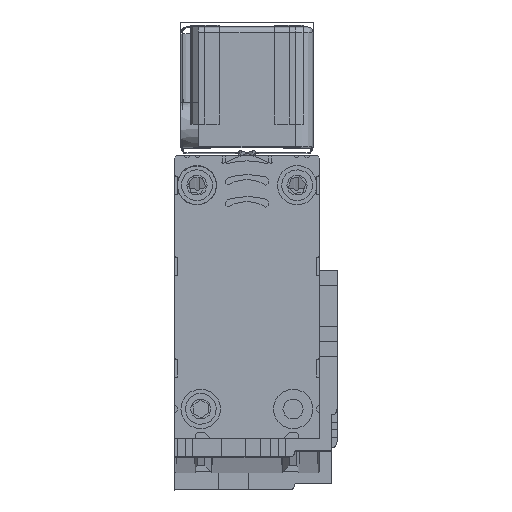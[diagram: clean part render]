
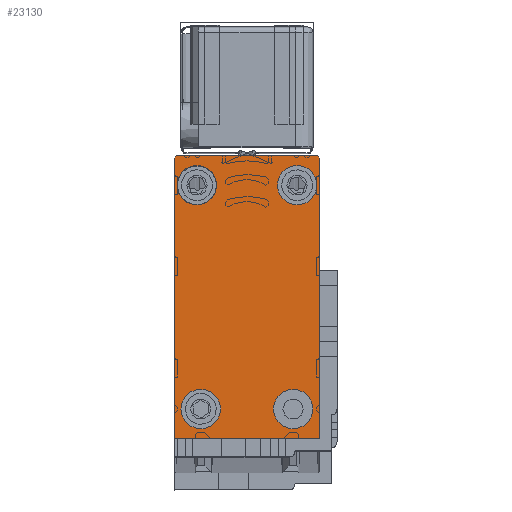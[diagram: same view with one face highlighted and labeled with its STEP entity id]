
A CAD part, top view. The second image highlights one B-rep face of the part: STEP entity #23130.
In plain terms, the highlighted planar face has unit normal (0, 0, 1).
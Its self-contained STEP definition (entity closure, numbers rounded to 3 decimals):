
#348 = CARTESIAN_POINT ( 'NONE',  ( -18.014, 25.871, 3185. ) ) ;
#368 = AXIS2_PLACEMENT_3D ( 'NONE', #13480, #2175, #15361 ) ;
#696 = PLANE ( 'NONE',  #1448 ) ;
#739 = ORIENTED_EDGE ( 'NONE', *, *, #10903, .T. ) ;
#771 = DIRECTION ( 'NONE',  ( -1., 0., 0. ) ) ;
#1096 = CARTESIAN_POINT ( 'NONE',  ( -17.017, -15.887, 3185. ) ) ;
#1256 = LINE ( 'NONE', #21057, #20518 ) ;
#1262 = FACE_BOUND ( 'NONE', #15557, .T. ) ;
#1448 = AXIS2_PLACEMENT_3D ( 'NONE', #23103, #12112, #771 ) ;
#1514 = ORIENTED_EDGE ( 'NONE', *, *, #12189, .T. ) ;
#1546 = CARTESIAN_POINT ( 'NONE',  ( -18.014, 25.871, 3185. ) ) ;
#1666 = ORIENTED_EDGE ( 'NONE', *, *, #8237, .T. ) ;
#1703 = LINE ( 'NONE', #15702, #20987 ) ;
#1790 = DIRECTION ( 'NONE',  ( -1., 0., 0. ) ) ;
#2175 = DIRECTION ( 'NONE',  ( 0., 0., -1. ) ) ;
#2239 = DIRECTION ( 'NONE',  ( 0., 0., -1. ) ) ;
#3128 = EDGE_CURVE ( 'NONE', #9596, #21381, #9467, .T. ) ;
#3173 = ORIENTED_EDGE ( 'NONE', *, *, #4798, .T. ) ;
#3261 = ORIENTED_EDGE ( 'NONE', *, *, #9477, .T. ) ;
#3410 = DIRECTION ( 'NONE',  ( 0., 0., -1. ) ) ;
#3472 = DIRECTION ( 'NONE',  ( 0., 0., -1. ) ) ;
#3632 = CARTESIAN_POINT ( 'NONE',  ( -17.514, 26.371, 3185. ) ) ;
#3875 = VERTEX_POINT ( 'NONE', #348 ) ;
#3923 = CARTESIAN_POINT ( 'NONE',  ( 5.984, 25.871, 3185. ) ) ;
#3954 = AXIS2_PLACEMENT_3D ( 'NONE', #4234, #17372, #6115 ) ;
#4234 = CARTESIAN_POINT ( 'NONE',  ( -14.365, 21.401, 3185. ) ) ;
#4460 = CARTESIAN_POINT ( 'NONE',  ( -10.412, -15.887, 3185. ) ) ;
#4787 = CIRCLE ( 'NONE', #19056, 3.302 ) ;
#4798 = EDGE_CURVE ( 'NONE', #6881, #23871, #18098, .T. ) ;
#5351 = DIRECTION ( 'NONE',  ( 0., 0., 1. ) ) ;
#5528 = CARTESIAN_POINT ( 'NONE',  ( 5.637, 21.401, 3185. ) ) ;
#5679 = EDGE_CURVE ( 'NONE', #23871, #9207, #23777, .T. ) ;
#5950 = EDGE_LOOP ( 'NONE', ( #22499, #23508 ) ) ;
#5968 = ORIENTED_EDGE ( 'NONE', *, *, #13428, .T. ) ;
#6022 = EDGE_CURVE ( 'NONE', #3875, #6881, #19817, .T. ) ;
#6115 = DIRECTION ( 'NONE',  ( -1., 0., 0. ) ) ;
#6315 = FACE_BOUND ( 'NONE', #6565, .T. ) ;
#6565 = EDGE_LOOP ( 'NONE', ( #1666, #3261 ) ) ;
#6881 = VERTEX_POINT ( 'NONE', #15644 ) ;
#7411 = EDGE_CURVE ( 'NONE', #21381, #9596, #21707, .T. ) ;
#7789 = CARTESIAN_POINT ( 'NONE',  ( -13.714, -15.887, 3185. ) ) ;
#7806 = AXIS2_PLACEMENT_3D ( 'NONE', #13538, #2239, #15429 ) ;
#8053 = CIRCLE ( 'NONE', #15170, 3.302 ) ;
#8237 = EDGE_CURVE ( 'NONE', #21777, #13922, #8053, .T. ) ;
#8391 = ORIENTED_EDGE ( 'NONE', *, *, #14989, .T. ) ;
#8800 = ORIENTED_EDGE ( 'NONE', *, *, #5679, .T. ) ;
#9207 = VERTEX_POINT ( 'NONE', #12828 ) ;
#9383 = CARTESIAN_POINT ( 'NONE',  ( -17.667, 21.401, 3185. ) ) ;
#9467 = CIRCLE ( 'NONE', #3954, 3.302 ) ;
#9477 = EDGE_CURVE ( 'NONE', #13922, #21777, #4787, .T. ) ;
#9539 = CARTESIAN_POINT ( 'NONE',  ( 5.984, -20.888, 3185. ) ) ;
#9581 = CARTESIAN_POINT ( 'NONE',  ( -11.063, 21.401, 3185. ) ) ;
#9596 = VERTEX_POINT ( 'NONE', #9383 ) ;
#9688 = DIRECTION ( 'NONE',  ( -1., 0., 0. ) ) ;
#9966 = DIRECTION ( 'NONE',  ( -1., 0., 0. ) ) ;
#9989 = CARTESIAN_POINT ( 'NONE',  ( -17.514, 25.871, 3185. ) ) ;
#10071 = DIRECTION ( 'NONE',  ( 0., 1., 0. ) ) ;
#10339 = ORIENTED_EDGE ( 'NONE', *, *, #19031, .T. ) ;
#10408 = VERTEX_POINT ( 'NONE', #3923 ) ;
#10434 = EDGE_CURVE ( 'NONE', #19066, #16810, #11799, .T. ) ;
#10435 = CARTESIAN_POINT ( 'NONE',  ( 2.335, 21.401, 3185. ) ) ;
#10630 = VERTEX_POINT ( 'NONE', #1096 ) ;
#10903 = EDGE_CURVE ( 'NONE', #16810, #19066, #13818, .T. ) ;
#10952 = DIRECTION ( 'NONE',  ( 0., -1., 0. ) ) ;
#11598 = ORIENTED_EDGE ( 'NONE', *, *, #6022, .T. ) ;
#11799 = CIRCLE ( 'NONE', #368, 3.302 ) ;
#11916 = DIRECTION ( 'NONE',  ( 0., 1., 0. ) ) ;
#12112 = DIRECTION ( 'NONE',  ( 0., 0., 1. ) ) ;
#12189 = EDGE_CURVE ( 'NONE', #10630, #23108, #22239, .T. ) ;
#12353 = ORIENTED_EDGE ( 'NONE', *, *, #15962, .F. ) ;
#12354 = DIRECTION ( 'NONE',  ( -1., 0., 0. ) ) ;
#12638 = CARTESIAN_POINT ( 'NONE',  ( 5.984, -20.888, 3185. ) ) ;
#12828 = CARTESIAN_POINT ( 'NONE',  ( 5.984, 7.11, 3185. ) ) ;
#13087 = DIRECTION ( 'NONE',  ( 0., 0., -1. ) ) ;
#13428 = EDGE_CURVE ( 'NONE', #23108, #10630, #21079, .T. ) ;
#13480 = CARTESIAN_POINT ( 'NONE',  ( 1.676, -15.887, 3185. ) ) ;
#13538 = CARTESIAN_POINT ( 'NONE',  ( -14.365, 21.401, 3185. ) ) ;
#13818 = CIRCLE ( 'NONE', #17591, 3.302 ) ;
#13887 = CARTESIAN_POINT ( 'NONE',  ( -1.626, -15.887, 3185. ) ) ;
#13922 = VERTEX_POINT ( 'NONE', #5528 ) ;
#14525 = DIRECTION ( 'NONE',  ( 0., 1., 0. ) ) ;
#14553 = EDGE_CURVE ( 'NONE', #10408, #24125, #20801, .T. ) ;
#14703 = CARTESIAN_POINT ( 'NONE',  ( 1.676, -15.887, 3185. ) ) ;
#14759 = CARTESIAN_POINT ( 'NONE',  ( -13.714, -15.887, 3185. ) ) ;
#14926 = EDGE_LOOP ( 'NONE', ( #1514, #5968 ) ) ;
#14989 = EDGE_CURVE ( 'NONE', #24125, #19536, #1256, .T. ) ;
#15170 = AXIS2_PLACEMENT_3D ( 'NONE', #10435, #23322, #12354 ) ;
#15259 = AXIS2_PLACEMENT_3D ( 'NONE', #9989, #22894, #11916 ) ;
#15361 = DIRECTION ( 'NONE',  ( -1., 0., 0. ) ) ;
#15429 = DIRECTION ( 'NONE',  ( -1., 0., 0. ) ) ;
#15557 = EDGE_LOOP ( 'NONE', ( #20185, #739 ) ) ;
#15644 = CARTESIAN_POINT ( 'NONE',  ( -18.014, -20.888, 3185. ) ) ;
#15702 = CARTESIAN_POINT ( 'NONE',  ( 5.984, 7.11, 3185. ) ) ;
#15739 = FACE_OUTER_BOUND ( 'NONE', #15746, .T. ) ;
#15746 = EDGE_LOOP ( 'NONE', ( #8800, #10339, #17680, #8391, #12353, #11598, #3173 ) ) ;
#15962 = EDGE_CURVE ( 'NONE', #3875, #19536, #20179, .T. ) ;
#16192 = CARTESIAN_POINT ( 'NONE',  ( 5.485, 26.371, 3185. ) ) ;
#16294 = DIRECTION ( 'NONE',  ( 1., 0., 0. ) ) ;
#16591 = DIRECTION ( 'NONE',  ( -1., 0., 0. ) ) ;
#16636 = CARTESIAN_POINT ( 'NONE',  ( 5.485, 25.871, 3185. ) ) ;
#16640 = DIRECTION ( 'NONE',  ( -1., 0., 0. ) ) ;
#16810 = VERTEX_POINT ( 'NONE', #20884 ) ;
#16962 = AXIS2_PLACEMENT_3D ( 'NONE', #14759, #3472, #16640 ) ;
#17372 = DIRECTION ( 'NONE',  ( 0., 0., -1. ) ) ;
#17549 = VECTOR ( 'NONE', #16294, 1000. ) ;
#17591 = AXIS2_PLACEMENT_3D ( 'NONE', #14703, #3410, #16591 ) ;
#17620 = AXIS2_PLACEMENT_3D ( 'NONE', #7789, #20764, #9688 ) ;
#17680 = ORIENTED_EDGE ( 'NONE', *, *, #14553, .T. ) ;
#18098 = LINE ( 'NONE', #18114, #17549 ) ;
#18114 = CARTESIAN_POINT ( 'NONE',  ( -18.014, -20.888, 3185. ) ) ;
#18457 = DIRECTION ( 'NONE',  ( 0., 1., 0. ) ) ;
#18987 = VECTOR ( 'NONE', #14525, 1000. ) ;
#19031 = EDGE_CURVE ( 'NONE', #9207, #10408, #1703, .T. ) ;
#19056 = AXIS2_PLACEMENT_3D ( 'NONE', #24033, #13087, #1790 ) ;
#19066 = VERTEX_POINT ( 'NONE', #13887 ) ;
#19264 = VECTOR ( 'NONE', #10952, 1000. ) ;
#19536 = VERTEX_POINT ( 'NONE', #3632 ) ;
#19817 = LINE ( 'NONE', #1546, #19264 ) ;
#20163 = AXIS2_PLACEMENT_3D ( 'NONE', #16636, #5351, #18457 ) ;
#20179 = CIRCLE ( 'NONE', #15259, 0.5 ) ;
#20185 = ORIENTED_EDGE ( 'NONE', *, *, #10434, .T. ) ;
#20518 = VECTOR ( 'NONE', #9966, 1000. ) ;
#20528 = FACE_BOUND ( 'NONE', #14926, .T. ) ;
#20764 = DIRECTION ( 'NONE',  ( 0., 0., -1. ) ) ;
#20801 = CIRCLE ( 'NONE', #20163, 0.5 ) ;
#20884 = CARTESIAN_POINT ( 'NONE',  ( 4.978, -15.887, 3185. ) ) ;
#20987 = VECTOR ( 'NONE', #10071, 1000. ) ;
#21057 = CARTESIAN_POINT ( 'NONE',  ( 5.485, 26.371, 3185. ) ) ;
#21079 = CIRCLE ( 'NONE', #17620, 3.302 ) ;
#21127 = FACE_BOUND ( 'NONE', #5950, .T. ) ;
#21381 = VERTEX_POINT ( 'NONE', #9581 ) ;
#21707 = CIRCLE ( 'NONE', #7806, 3.302 ) ;
#21777 = VERTEX_POINT ( 'NONE', #21779 ) ;
#21779 = CARTESIAN_POINT ( 'NONE',  ( -0.967, 21.401, 3185. ) ) ;
#22239 = CIRCLE ( 'NONE', #16962, 3.302 ) ;
#22499 = ORIENTED_EDGE ( 'NONE', *, *, #3128, .T. ) ;
#22894 = DIRECTION ( 'NONE',  ( 0., 0., -1. ) ) ;
#23103 = CARTESIAN_POINT ( 'NONE',  ( -18.014, -20.888, 3185. ) ) ;
#23108 = VERTEX_POINT ( 'NONE', #4460 ) ;
#23130 = ADVANCED_FACE ( 'NONE', ( #21127, #6315, #1262, #20528, #15739 ), #696, .T. ) ;
#23322 = DIRECTION ( 'NONE',  ( 0., 0., -1. ) ) ;
#23508 = ORIENTED_EDGE ( 'NONE', *, *, #7411, .T. ) ;
#23777 = LINE ( 'NONE', #12638, #18987 ) ;
#23871 = VERTEX_POINT ( 'NONE', #9539 ) ;
#24033 = CARTESIAN_POINT ( 'NONE',  ( 2.335, 21.401, 3185. ) ) ;
#24125 = VERTEX_POINT ( 'NONE', #16192 ) ;
